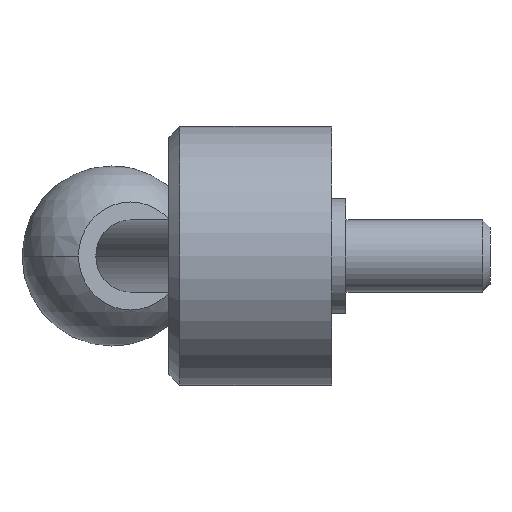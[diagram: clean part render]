
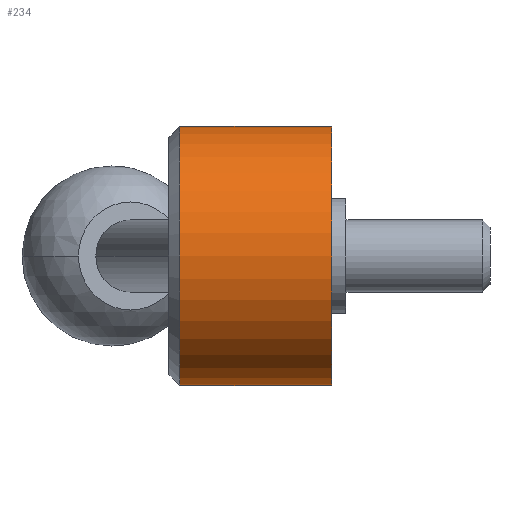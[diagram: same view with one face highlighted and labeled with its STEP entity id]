
A CAD part, left-side view. The second image highlights one B-rep face of the part: STEP entity #234.
In plain terms, the highlighted cylindrical face has radius 18 mm (diameter 36 mm), a partial arc.
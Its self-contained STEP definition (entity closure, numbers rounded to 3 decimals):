
#7 = CYLINDRICAL_SURFACE ( 'NONE', #227, 18. ) ;
#14 = EDGE_CURVE ( 'NONE', #706, #715, #564, .T. ) ;
#35 = CARTESIAN_POINT ( 'NONE',  ( 0., 21.1, 0. ) ) ;
#138 = LINE ( 'NONE', #272, #793 ) ;
#140 = CARTESIAN_POINT ( 'NONE',  ( 0., 21.1, -18. ) ) ;
#158 = EDGE_CURVE ( 'NONE', #715, #835, #138, .T. ) ;
#171 = DIRECTION ( 'NONE',  ( 0., -1., 0. ) ) ;
#214 = AXIS2_PLACEMENT_3D ( 'NONE', #290, #422, #676 ) ;
#219 = DIRECTION ( 'NONE',  ( 0., -1., 0. ) ) ;
#227 = AXIS2_PLACEMENT_3D ( 'NONE', #678, #219, #737 ) ;
#234 = ADVANCED_FACE ( 'NONE', ( #462 ), #7, .T. ) ;
#262 = CARTESIAN_POINT ( 'NONE',  ( 0., 0., -18. ) ) ;
#272 = CARTESIAN_POINT ( 'NONE',  ( 0., 0., -18. ) ) ;
#280 = CARTESIAN_POINT ( 'NONE',  ( 0., 21.1, 18. ) ) ;
#282 = ORIENTED_EDGE ( 'NONE', *, *, #158, .T. ) ;
#290 = CARTESIAN_POINT ( 'NONE',  ( 0., 0., 0. ) ) ;
#347 = EDGE_LOOP ( 'NONE', ( #470, #695, #282, #489 ) ) ;
#422 = DIRECTION ( 'NONE',  ( 0., -1., 0. ) ) ;
#462 = FACE_OUTER_BOUND ( 'NONE', #347, .T. ) ;
#470 = ORIENTED_EDGE ( 'NONE', *, *, #757, .F. ) ;
#489 = ORIENTED_EDGE ( 'NONE', *, *, #660, .F. ) ;
#511 = VECTOR ( 'NONE', #171, 1000. ) ;
#552 = DIRECTION ( 'NONE',  ( 0., 0., 1. ) ) ;
#564 = CIRCLE ( 'NONE', #862, 18. ) ;
#576 = CARTESIAN_POINT ( 'NONE',  ( 0., 0., 18. ) ) ;
#599 = DIRECTION ( 'NONE',  ( 0., -1., 0. ) ) ;
#622 = CARTESIAN_POINT ( 'NONE',  ( 0., 0., 18. ) ) ;
#624 = VERTEX_POINT ( 'NONE', #622 ) ;
#660 = EDGE_CURVE ( 'NONE', #624, #835, #876, .T. ) ;
#676 = DIRECTION ( 'NONE',  ( 0., 0., -1. ) ) ;
#678 = CARTESIAN_POINT ( 'NONE',  ( 0., 0., 0. ) ) ;
#695 = ORIENTED_EDGE ( 'NONE', *, *, #14, .T. ) ;
#706 = VERTEX_POINT ( 'NONE', #280 ) ;
#715 = VERTEX_POINT ( 'NONE', #140 ) ;
#737 = DIRECTION ( 'NONE',  ( 0., 0., -1. ) ) ;
#757 = EDGE_CURVE ( 'NONE', #706, #624, #786, .T. ) ;
#786 = LINE ( 'NONE', #576, #511 ) ;
#793 = VECTOR ( 'NONE', #599, 1000. ) ;
#833 = DIRECTION ( 'NONE',  ( 0., -1., 0. ) ) ;
#835 = VERTEX_POINT ( 'NONE', #262 ) ;
#862 = AXIS2_PLACEMENT_3D ( 'NONE', #35, #833, #552 ) ;
#876 = CIRCLE ( 'NONE', #214, 18. ) ;
